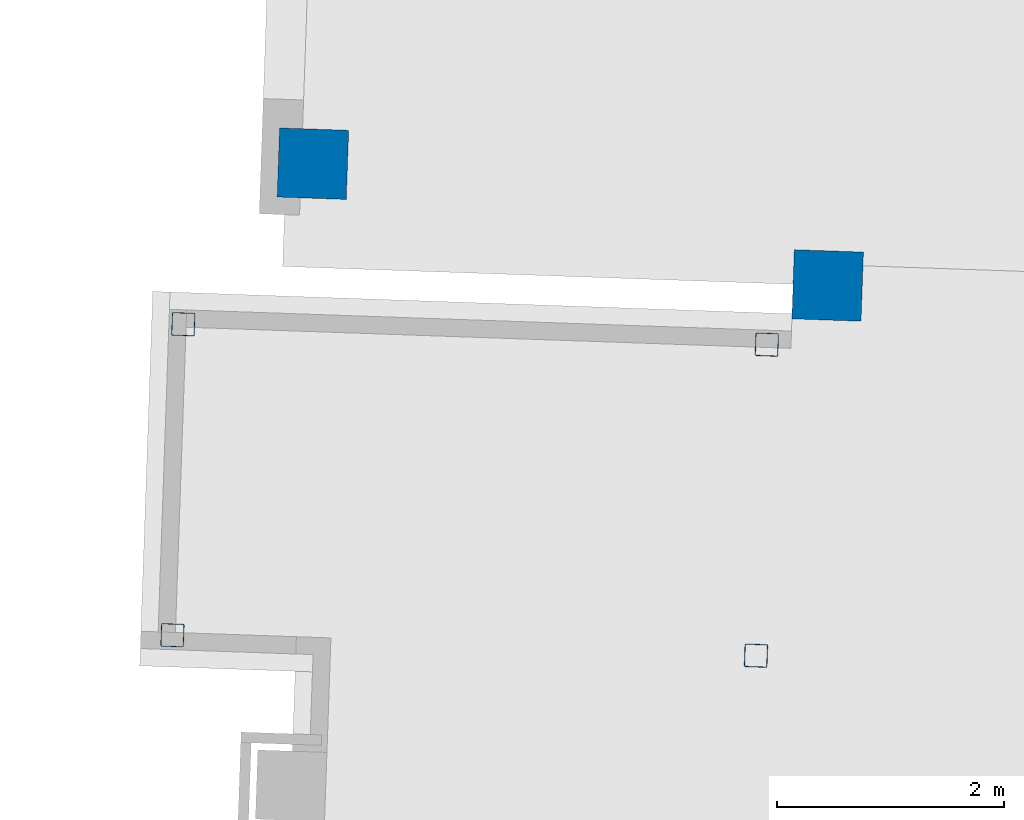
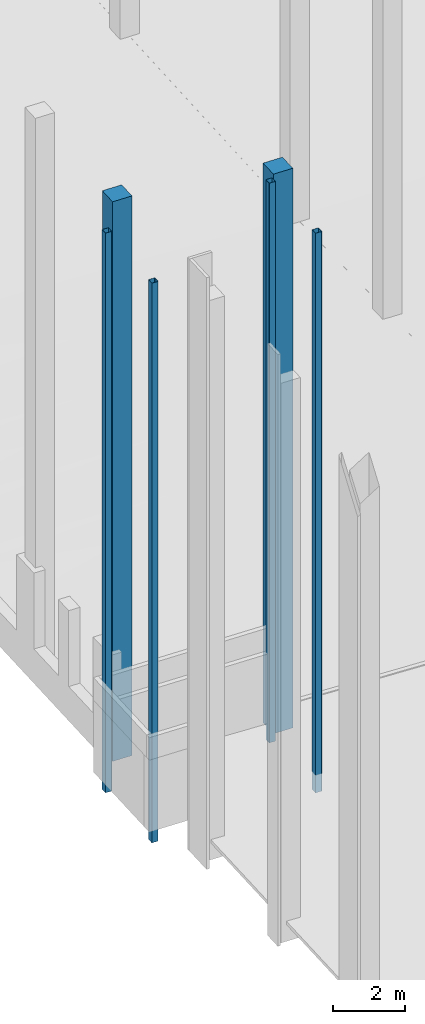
# One storey, part 3 of 44: 6 columns.
"""IFC2X3 building model written with IfcOpenShell, lengths in feet."""

from ifc_helpers import new_model, entity, si_unit, converted_unit, derived_unit, direction, frame, frame_2d, origin, origin_2d_with_axis, place, context, subcontext, project, spatial, polyline, circle_curve, parameter, trimmed, segment, composite_curve, rectangle, outline, extrude, source, transform, mapped, material, type_object, type_shapes, element, save


model = new_model("IFC2X3")

# Units and contexts
model_context = context("Model", 3, precision=0.0001, world=origin(), true_north=direction((0.999390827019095, 0.0348994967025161)))
body_context = subcontext(model_context, "Body", "Model", "MODEL_VIEW")
ifc_project = project(units=[converted_unit("LENGTHUNIT", "FOOT", entity("IfcRatioMeasure", 0.3048), si_unit("LENGTHUNIT", "METRE"), dimensions=[1, 0, 0, 0, 0, 0, 0]), converted_unit("AREAUNIT", "SQUARE FOOT", entity("IfcRatioMeasure", 0.09290304), si_unit("AREAUNIT", "SQUARE_METRE"), dimensions=[2, 0, 0, 0, 0, 0, 0]), converted_unit("VOLUMEUNIT", "CUBIC FOOT", entity("IfcRatioMeasure", 0.028316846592), si_unit("VOLUMEUNIT", "CUBIC_METRE"), dimensions=[3, 0, 0, 0, 0, 0, 0]), converted_unit("PLANEANGLEUNIT", "DEGREE", entity("IfcRatioMeasure", 0.0174532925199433), si_unit("PLANEANGLEUNIT", "RADIAN"), dimensions=[0, 0, 0, 0, 0, 0, 0]), si_unit("MASSUNIT", "GRAM", prefix="KILO"), si_unit("TIMEUNIT", "SECOND"), si_unit("FREQUENCYUNIT", "HERTZ"), si_unit("THERMODYNAMICTEMPERATUREUNIT", "DEGREE_CELSIUS"), derived_unit("THERMALTRANSMITTANCEUNIT", [(si_unit("MASSUNIT", "GRAM", prefix="KILO"), 1), (si_unit("THERMODYNAMICTEMPERATUREUNIT", "KELVIN"), -1), (si_unit("TIMEUNIT", "SECOND"), -3)]), derived_unit("VOLUMETRICFLOWRATEUNIT", [(si_unit("LENGTHUNIT", "METRE"), 3), (si_unit("TIMEUNIT", "SECOND"), -1)]), si_unit("ELECTRICCURRENTUNIT", "AMPERE"), si_unit("ELECTRICVOLTAGEUNIT", "VOLT"), si_unit("POWERUNIT", "WATT"), si_unit("FORCEUNIT", "NEWTON"), si_unit("ILLUMINANCEUNIT", "LUX"), si_unit("LUMINOUSFLUXUNIT", "LUMEN"), si_unit("LUMINOUSINTENSITYUNIT", "CANDELA"), derived_unit("USERDEFINED", [(si_unit("MASSUNIT", "GRAM", prefix="KILO"), -1), (si_unit("LENGTHUNIT", "METRE"), -2), (si_unit("TIMEUNIT", "SECOND"), 3), (si_unit("LUMINOUSFLUXUNIT", "LUMEN"), 1)]), derived_unit("LINEARVELOCITYUNIT", [(si_unit("LENGTHUNIT", "METRE"), 1), (si_unit("TIMEUNIT", "SECOND"), -1)]), si_unit("PRESSUREUNIT", "PASCAL"), derived_unit("USERDEFINED", [(si_unit("LENGTHUNIT", "METRE"), -2), (si_unit("MASSUNIT", "GRAM", prefix="KILO"), 1), (si_unit("TIMEUNIT", "SECOND"), -2)])], contexts=[model_context])

# Site, building, storey
site_placement = place(None, frame((892.518771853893, 322.38689265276, 0.00393700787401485), z_axis=(0.0, 0.0, 1.0), x_axis=(0.0348994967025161, 0.999390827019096, 0.0)))
site = spatial("IfcSite", under=ifc_project, at=site_placement, Name="Default", CompositionType="ELEMENT")
building_placement = place(site_placement, origin())
building = spatial("IfcBuilding", under=site, at=building_placement, CompositionType="ELEMENT")
storey_placement = place(building_placement, frame((0.0, 0.0, 544.75)))
storey = spatial("IfcBuildingStorey", under=building, at=storey_placement, Name="Exist Garage - Ground Level", CompositionType="ELEMENT", Elevation=544.75)

# Columns
ifc_material_1 = material(Name="Concrete - Cast-in-Place Concrete")
column_type_1 = type_object("IfcColumnType", Name="24 x 24", PredefinedType="COLUMN", material=ifc_material_1)
shared_shape_1 = source(origin(), body_context, "Body", "SweptSolid", [
    extrude(rectangle(XDim=2.0, YDim=2.0, at=origin_2d_with_axis()), frame((105.927293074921, 456.76395347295, 544.75), z_axis=(0.0, 0.0, 1.0), x_axis=(0.0, -1.0, 0.0)), (0.0, 0.0, 1.0), 62.25),
])
type_shapes(column_type_1, [shared_shape_1])
column_1_placement = place(storey_placement, frame((0.0, 0.0, -544.75)))
element("IfcColumn", 1, at=column_1_placement, inside=storey, type_object=column_type_1, material=ifc_material_1, Name="Concrete-Square-Column:24 x 24", ObjectType="24 x 24", context=body_context, shape_type="MappedRepresentation", body=[
    mapped(shared_shape_1, transform((0.0, 0.0, 0.0), scale=1.0)),
])
column_type_2 = type_object("IfcColumnType", Name="24 x 24", PredefinedType="COLUMN", material=ifc_material_1)
shared_shape_2 = source(origin(), body_context, "Body", "SweptSolid", [
    extrude(rectangle(XDim=2.0, YDim=2.0, at=origin_2d_with_axis()), frame((102.92729680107, 441.76395347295, 544.75), z_axis=(0.0, 0.0, 1.0), x_axis=(0.0, -1.0, 0.0)), (0.0, 0.0, 1.0), 62.25),
])
type_shapes(column_type_2, [shared_shape_2])
column_2_placement = place(storey_placement, frame((0.0, 0.0, -544.75)))
element("IfcColumn", 2, at=column_2_placement, inside=storey, type_object=column_type_2, material=ifc_material_1, Name="Concrete-Square-Column:24 x 24", ObjectType="24 x 24", context=body_context, shape_type="MappedRepresentation", body=[
    mapped(shared_shape_2, transform((0.0, 0.0, 0.0), scale=1.0)),
])
ifc_material_2 = material(Name="Metal - Steel - ASTM A500 - Grade B - Rectangular and Square")
column_type_3 = type_object("IfcColumnType", Name="HSS8X8X1/4", PredefinedType="COLUMN", material=ifc_material_2)
shared_shape_3 = source(origin(), body_context, "Body", "SweptSolid", [
    extrude(outline(composite_curve([segment(polyline([(-0.294500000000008, -0.333333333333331), (0.2945, -0.333333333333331)]), True, "CONTINUOUS"), segment(trimmed(circle_curve(frame_2d((0.2945, -0.294499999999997), x_axis=(-1.0, 0.0)), 0.0388333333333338), [parameter(90.0000000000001)], [parameter(180.0)], True, "PARAMETER"), True, "CONTINUOUS"), segment(polyline([(0.333333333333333, -0.294499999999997), (0.333333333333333, 0.294500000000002)]), True, "CONTINUOUS"), segment(trimmed(circle_curve(frame_2d((0.294499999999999, 0.294500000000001), x_axis=(-1.0, 0.0)), 0.0388333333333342), [parameter(180.0)], [parameter(270.0)], True, "PARAMETER"), True, "CONTINUOUS"), segment(polyline([(0.294499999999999, 0.333333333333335), (-0.294499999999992, 0.333333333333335)]), True, "CONTINUOUS"), segment(trimmed(circle_curve(frame_2d((-0.294499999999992, 0.294499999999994), x_axis=(-1.0, 0.0)), 0.0388333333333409), [parameter(270.0)], [parameter(360.0)], True, "PARAMETER"), True, "CONTINUOUS"), segment(polyline([(-0.333333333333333, 0.294499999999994), (-0.333333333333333, -0.294500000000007)]), True, "CONTINUOUS"), segment(trimmed(circle_curve(frame_2d((-0.294500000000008, -0.294500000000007), x_axis=(-1.0, 0.0)), 0.0388333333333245), [parameter(360.0)], [parameter(89.9999999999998)], True, "PARAMETER"), True, "CONTINUOUS")], self_intersect=False), holes=[composite_curve([segment(trimmed(circle_curve(frame_2d((-0.294500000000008, -0.294500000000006), x_axis=(-1.0, 0.0)), 0.0194166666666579), [parameter(0.0)], [parameter(89.9999999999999)], True, "PARAMETER"), False, "CONTINUOUS"), segment(polyline([(-0.313916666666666, -0.294500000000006), (-0.313916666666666, 0.294500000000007)]), True, "CONTINUOUS"), segment(trimmed(circle_curve(frame_2d((-0.294500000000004, 0.294500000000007), x_axis=(-1.0, 0.0)), 0.0194166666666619), [parameter(270.0)], [parameter(0.0)], True, "PARAMETER"), False, "CONTINUOUS"), segment(polyline([(-0.294500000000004, 0.313916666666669), (0.294499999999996, 0.313916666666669)]), True, "CONTINUOUS"), segment(trimmed(circle_curve(frame_2d((0.294499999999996, 0.294499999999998), x_axis=(-1.0, 0.0)), 0.0194166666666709), [parameter(180.0)], [parameter(270.0)], True, "PARAMETER"), False, "CONTINUOUS"), segment(polyline([(0.313916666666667, 0.294499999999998), (0.313916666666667, -0.294499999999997)]), True, "CONTINUOUS"), segment(trimmed(circle_curve(frame_2d((0.2945, -0.294499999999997), x_axis=(-1.0, 0.0)), 0.0194166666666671), [parameter(90.0000000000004)], [parameter(180.0)], True, "PARAMETER"), False, "CONTINUOUS"), segment(polyline([(0.2945, -0.313916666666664), (-0.294500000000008, -0.313916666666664)]), True, "CONTINUOUS")], self_intersect=False)]), frame((0.0, 0.0, 544.75), z_axis=(0.0, 0.0, 1.0), x_axis=(-1.0, 0.0, 0.0)), (0.0, 0.0, 1.0), 62.25),
])
type_shapes(column_type_3, [shared_shape_3])
for number, where, name in (
    (3, (92.1564634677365, 460.347286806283, -544.75), "HSS-Hollow Structural Section-Column:HSS8X8X1/4"),
    (4, (101.156463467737, 460.347286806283, -544.75), "HSS-Hollow Structural Section-Column:HSS8X8X1/4"),
    (5, (92.1564634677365, 443.461870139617, -544.75), "HSS-Hollow Structural Section-Column:HSS8X8X1/4"),
    (6, (101.156463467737, 443.461870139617, -544.75), "HSS-Hollow Structural Section-Column:HSS8X8X1/4"),
):
    element("IfcColumn", number, at=place(storey_placement, frame(where)), inside=storey, type_object=column_type_3, material=ifc_material_2, Name=name, ObjectType="HSS8X8X1/4", context=body_context, shape_type="MappedRepresentation", body=[
        mapped(shared_shape_3, transform((0.0, 0.0, 0.0), scale=1.0)),
    ])

save(model, "model.ifc")
